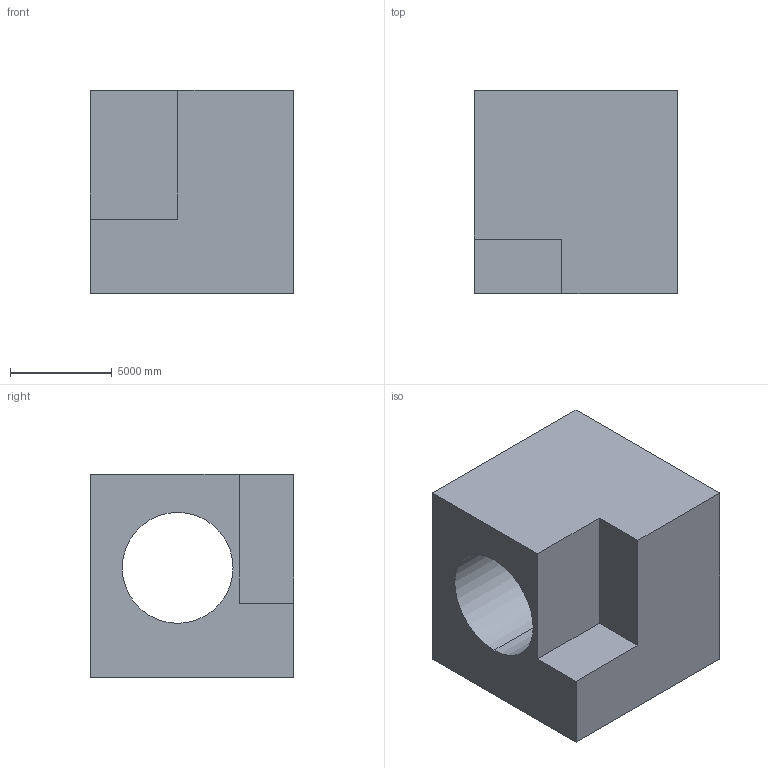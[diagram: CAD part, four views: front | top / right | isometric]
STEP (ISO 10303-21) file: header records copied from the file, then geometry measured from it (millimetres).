
FILE_DESCRIPTION (( 'STEP AP203' ), '1' );
FILE_NAME ('86.STEP', '2022-07-28T13:34:52', ( 'user' ), ( '' ), 'SwSTEP 2.0', 'SolidWorks 2021', '' );
FILE_SCHEMA (( 'CONFIG_CONTROL_DESIGN' ));
Length unit declared in the file: centimetre
Products named in the file (1): 86
Bounding box: 10000 x 10000 x 10000 mm (x, y, z)
Volume: 693336873115 mm3; surface area: 724610272 mm2
Topology: 1 solids, 1 shells, 11 faces, 27 edges, 18 vertices
Faces by surface type: plane 9, cylinder 2
Entity records: 406 total; most frequent: CARTESIAN_POINT 57, DIRECTION 55, ORIENTED_EDGE 54, EDGE_CURVE 27, VECTOR 23, LINE 23, VERTEX_POINT 18, AXIS2_PLACEMENT_3D 16
